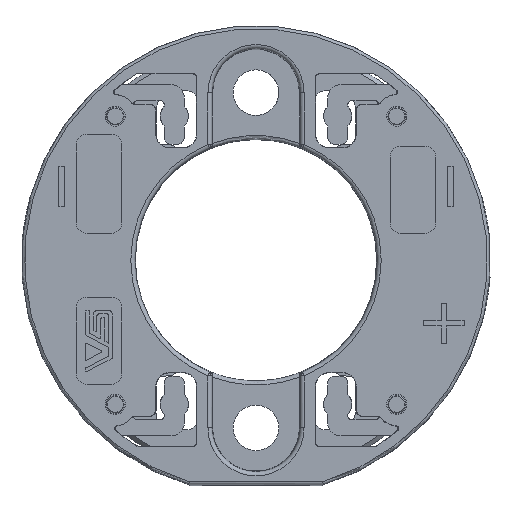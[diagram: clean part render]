
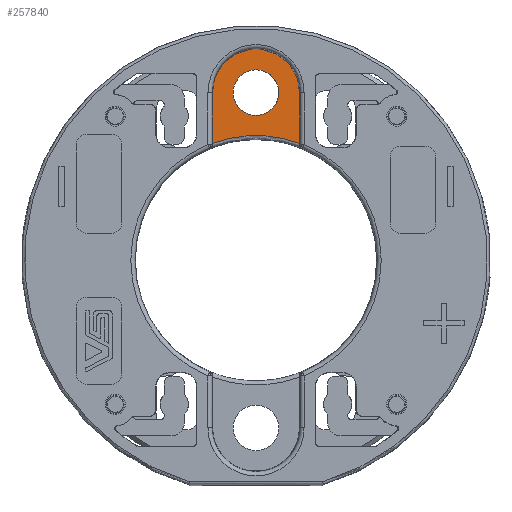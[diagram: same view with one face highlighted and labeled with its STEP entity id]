
A CAD part, front view. The second image highlights one B-rep face of the part: STEP entity #257840.
In plain terms, the highlighted planar face has unit normal (0, -1, 0).
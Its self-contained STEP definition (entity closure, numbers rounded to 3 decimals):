
#195350=CARTESIAN_POINT('',(-10.054,-3.408,-24.75))
;
#195360=VERTEX_POINT('',#195350);
#195390=CARTESIAN_POINT('',(-10.054,-3.408,-28.));
#195400=DIRECTION('',(0.,-1.,0.));
#195410=DIRECTION('',(-1.,0.,0.));
#195420=AXIS2_PLACEMENT_3D('',#195390,#195400,#195410);
#195430=CIRCLE('',#195420,3.25);
#195440=CARTESIAN_POINT('',(-10.054,-3.408,-31.25))
;
#195450=VERTEX_POINT('',#195440);
#195460=EDGE_CURVE('',#195360,#195450,#195430,.T.);
#199790=CARTESIAN_POINT('',(-6.27,-3.408,-24.75))
;
#199800=VERTEX_POINT('',#199790);
#199850=CARTESIAN_POINT('',(-10.504,-3.408,-24.75))
;
#199860=DIRECTION('',(-1.,0.,0.));
#199870=VECTOR('',#199860,1.);
#199880=LINE('',#199850,#199870);
#199890=EDGE_CURVE('',#199800,#195360,#199880,.T.);
#225500=CARTESIAN_POINT('',(-10.054,-3.408,-28.));
#225510=DIRECTION('',(0.,1.,0.));
#225520=DIRECTION('',(-1.,0.,0.));
#225530=AXIS2_PLACEMENT_3D('',#225500,#225510,#225520);
#225540=CIRCLE('',#225530,1.7);
#225550=CARTESIAN_POINT('',(-8.539,-3.408,
-27.23));
#225560=VERTEX_POINT('',#225550);
#225570=CARTESIAN_POINT('',(-8.354,-3.408,-28.));
#225580=VERTEX_POINT('',#225570);
#225590=EDGE_CURVE('',#225560,#225580,#225540,.T.);
#225820=CARTESIAN_POINT('',(-11.754,-3.408,-28.));
#225830=VERTEX_POINT('',#225820);
#225860=EDGE_CURVE('',#225830,#225560,#225540,.T.);
#257540=CARTESIAN_POINT('',(-10.504,-3.408,-28.));
#257550=DIRECTION('',(0.,1.,0.));
#257560=DIRECTION('',(1.,0.,0.));
#257570=AXIS2_PLACEMENT_3D('',#257540,#257550,#257560);
#257580=PLANE('',#257570);
#257590=EDGE_CURVE('',#225580,#225830,#225540,.T.);
#257600=ORIENTED_EDGE('',*,*,#257590,.T.);
#257610=ORIENTED_EDGE('',*,*,#225590,.T.);
#257620=ORIENTED_EDGE('',*,*,#225860,.T.);
#257630=EDGE_LOOP('',(#257620,#257610,#257600));
#257640=FACE_BOUND('',#257630,.T.);
#257650=ORIENTED_EDGE('',*,*,#195460,.T.);
#257660=ORIENTED_EDGE('',*,*,#199890,.T.);
#257670=CARTESIAN_POINT('',(2.446,-3.408,-28.));
#257680=DIRECTION('',(0.,-1.,0.));
#257690=DIRECTION('',(1.,0.,0.));
#257700=AXIS2_PLACEMENT_3D('',#257670,#257680,#257690);
#257710=CIRCLE('',#257700,9.302);
#257720=CARTESIAN_POINT('',(-6.27,-3.408,-31.25))
;
#257730=VERTEX_POINT('',#257720);
#257740=EDGE_CURVE('',#199800,#257730,#257710,.T.);
#257750=ORIENTED_EDGE('',*,*,#257740,.F.);
#257760=CARTESIAN_POINT('',(-10.504,-3.408,-31.25))
;
#257770=DIRECTION('',(-1.,0.,0.));
#257780=VECTOR('',#257770,1.);
#257790=LINE('',#257760,#257780);
#257800=EDGE_CURVE('',#257730,#195450,#257790,.T.);
#257810=ORIENTED_EDGE('',*,*,#257800,.F.);
#257820=EDGE_LOOP('',(#257810,#257750,#257660,#257650));
#257830=FACE_OUTER_BOUND('',#257820,.T.);
#257840=ADVANCED_FACE('',(#257640,#257830),#257580,.F.);
